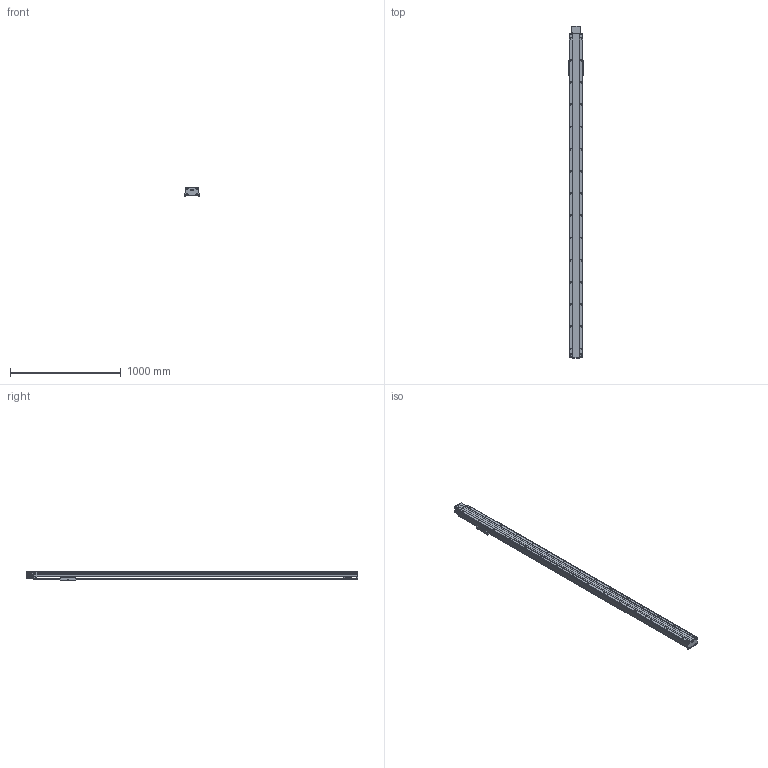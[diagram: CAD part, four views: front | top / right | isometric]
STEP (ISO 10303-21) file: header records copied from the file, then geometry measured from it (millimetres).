
FILE_DESCRIPTION(/* description */ (''),/* implementation_level */ '2;1');
FILE_NAME(/* name */ 'TKB120-FL-2600_asm1_stp_stp.stp',/* time_stamp */ '2016-06-28T15:47:58+08:00',/* author */ (''),/* organization */ (''),/* preprocessor_version */ 'ST-DEVELOPER v15',/* originating_system */ 'SIEMENS PLM Software NX 8.5',/* authorisation */ '');
FILE_SCHEMA (('AUTOMOTIVE_DESIGN { 1 0 10303 214 3 1 1 1 }'));
Length unit declared in the file: millimetre
Products named in the file (3): 200-2; 200-1; TKB120-FL-2600_asm1_stp_stp
Assembly tree (2 placements, depth 2):
  TKB120-FL-2600_asm1_stp_stp
    200-1
    200-2
Bounding box: 134 x 2991 x 80 mm (x, y, z)
Volume: 7110952.6 mm3; surface area: 2983197.5 mm2
Topology: 2 solids, 3 shells, 927 faces, 2785 edges, 1839 vertices
Faces by surface type: cylinder 473, plane 412, cone 42
Full cylindrical faces by diameter (mm): 2.5 x4, 3.3 x20, 4.2 x4, 4.5 x24, 5 x42, 5.5 x32, 6.6 x6, 6.8 x4, 7.5 x4, 8 x12, 9 x6, 9.75 x63, 10.5 x4, 11 x2, 12 x4, 14 x2, 17 x2, 35 x2, 40 x3, 50 x2, 52 x1
Entity records: 30983 total; most frequent: CARTESIAN_POINT 6949, DIRECTION 5006, ORIENTED_EDGE 4656, EDGE_CURVE 2328, AXIS2_PLACEMENT_3D 1926, VERTEX_POINT 1709, EDGE_LOOP 1459, LINE 1154
